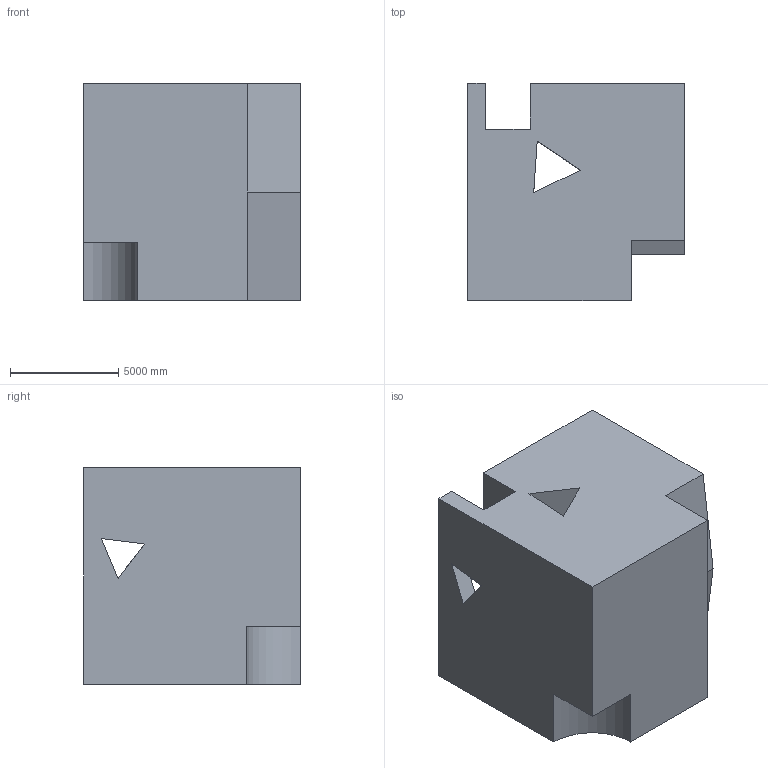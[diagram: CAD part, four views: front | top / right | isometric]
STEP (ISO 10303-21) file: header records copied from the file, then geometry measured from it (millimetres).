
FILE_DESCRIPTION (( 'STEP AP203' ), '1' );
FILE_NAME ('1547.STEP', '2022-08-18T15:43:06', ( 'user' ), ( '' ), 'SwSTEP 2.0', 'SolidWorks 2021', '' );
FILE_SCHEMA (( 'CONFIG_CONTROL_DESIGN' ));
Length unit declared in the file: centimetre
Products named in the file (1): 1547
Bounding box: 10000 x 10000 x 10000 mm (x, y, z)
Volume: 835721574173.5 mm3; surface area: 761006106 mm2
Topology: 1 solids, 1 shells, 27 faces, 84 edges, 56 vertices
Faces by surface type: plane 26, cylinder 1
Entity records: 1013 total; most frequent: CARTESIAN_POINT 168, ORIENTED_EDGE 168, DIRECTION 142, EDGE_CURVE 84, LINE 82, VECTOR 82, VERTEX_POINT 56, EDGE_LOOP 32
